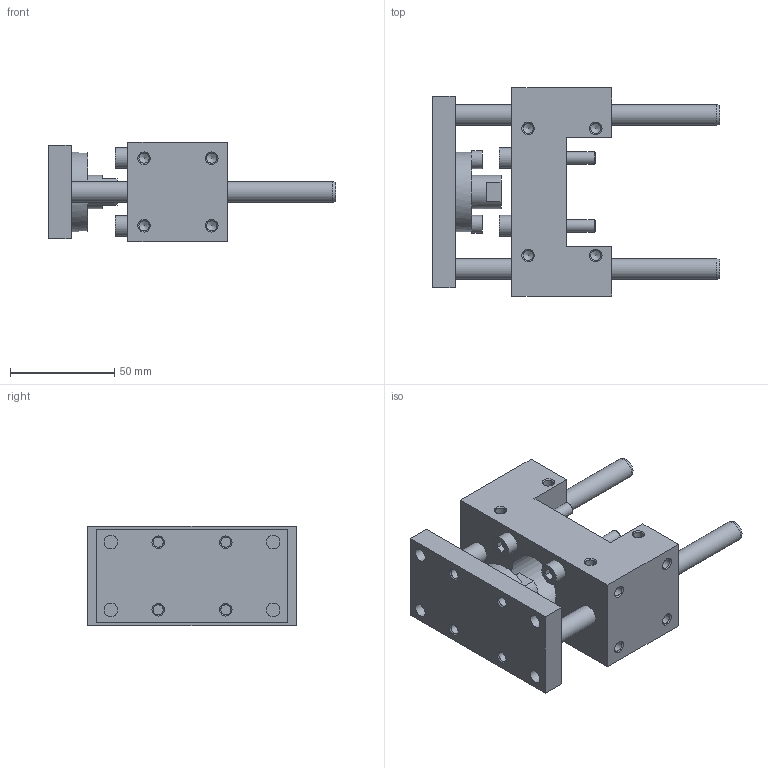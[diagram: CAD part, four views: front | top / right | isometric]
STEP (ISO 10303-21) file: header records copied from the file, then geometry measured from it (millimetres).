
FILE_DESCRIPTION( ( 'STEP AP214' ), '1' );
FILE_NAME( 'U:/Etudes/Top Solid/BIBLIO 3D AVM/TOP/PNEUMATIQUE/GUIDAGES/Type 34 (en U)/_Légère/3440130.step', '2005-05-27T12:19:09', ( ' ' ), ( ' ' ), 'XStep 1.0', ' ', ' ' );
FILE_SCHEMA( ( 'automotive_design' ) );
Length unit declared in the file: metre
Products named in the file (2): 1; 2
Bounding box: 138 x 100 x 48 mm (x, y, z)
Volume: 221639.7 mm3; surface area: 61491 mm2
Topology: 2 solids, 5 shells, 207 faces, 500 edges, 327 vertices
Faces by surface type: plane 90, cylinder 72, cone 45
Full cylindrical faces by diameter (mm): 4.134 x4, 4.918 x28, 5 x4, 5.5 x2, 6 x8, 6.5 x8, 8.5 x2, 8.647 x2, 10 x8, 16 x1, 18 x1, 22.8 x1, 25 x1, 30 x1, 38 x1
Entity records: 6811 total; most frequent: CARTESIAN_POINT 993, DIRECTION 882, ORIENTED_EDGE 628, EDGE_LOOP 376, AXIS2_PLACEMENT_3D 365, EDGE_CURVE 314, FACE_OUTER_BOUND 279, VERTEX_POINT 272
